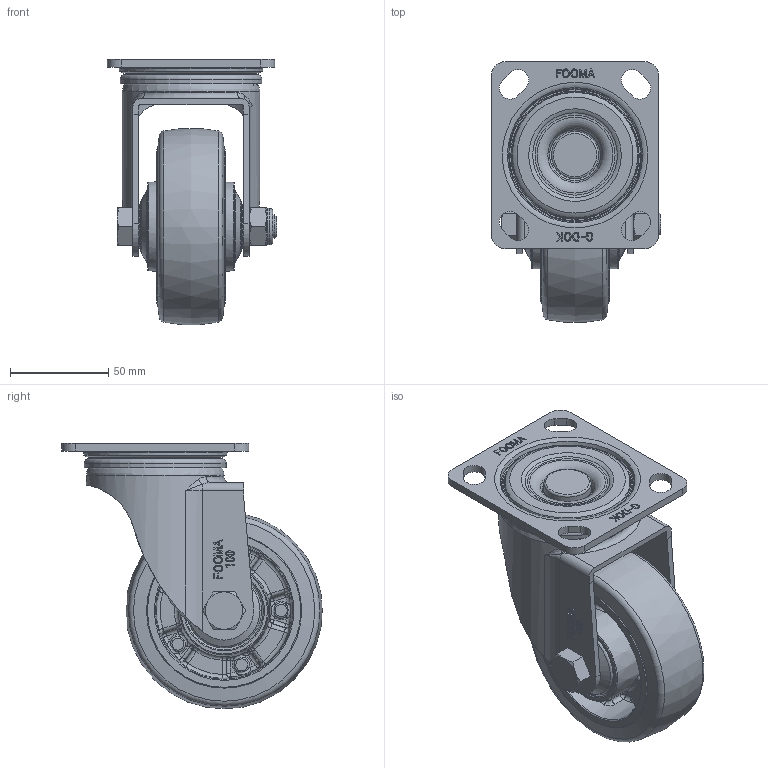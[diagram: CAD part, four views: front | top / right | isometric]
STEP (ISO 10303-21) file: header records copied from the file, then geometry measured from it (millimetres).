
FILE_DESCRIPTION(/* description */ (''),/* implementation_level */ '2;1');
FILE_NAME(/* name */ 'E:\★.DWG\★개발도면\PLM-SERIES(경중하중)-2016\홈페이지용\STEP\PLM-100-ASF-MUD.stp',/* time_stamp */ '2018-01-30T16:33:19+09:00',/* author */ ('장용하'),/* organization */ (''),/* preprocessor_version */ 'ST-DEVELOPER v16.13',/* originating_system */ 'Autodesk Inventor 2018',/* authorisation */ '');
FILE_SCHEMA (('AUTOMOTIVE_DESIGN { 1 0 10303 214 3 1 1 }'));
Length unit declared in the file: millimetre
Products named in the file (1): PLM-100-ASF-MUD ASSY_Shrinkwrap_1
Bounding box: 86 x 132.35 x 134.85 mm (x, y, z)
Volume: 321368.1 mm3; surface area: 89305.5 mm2
Topology: 1 solids, 1 shells, 1027 faces, 2557 edges, 1591 vertices
Faces by surface type: plane 446, bspline 290, torus 133, cylinder 88, sphere 40, cone 30
Full cylindrical faces by diameter (mm): 12 x1, 18.5 x1, 22 x4, 24 x1, 24.4 x1, 36 x2, 38 x2, 40 x2, 53.029 x1, 54.5 x1, 64 x1, 64.418 x2, 70 x1, 70.6 x1, 72 x1, 78 x2
Entity records: 35167 total; most frequent: CARTESIAN_POINT 11615, ORIENTED_EDGE 4856, DIRECTION 4205, EDGE_CURVE 2428, AXIS2_PLACEMENT_3D 1632, VERTEX_POINT 1563, EDGE_LOOP 1197, FACE_OUTER_BOUND 1027
